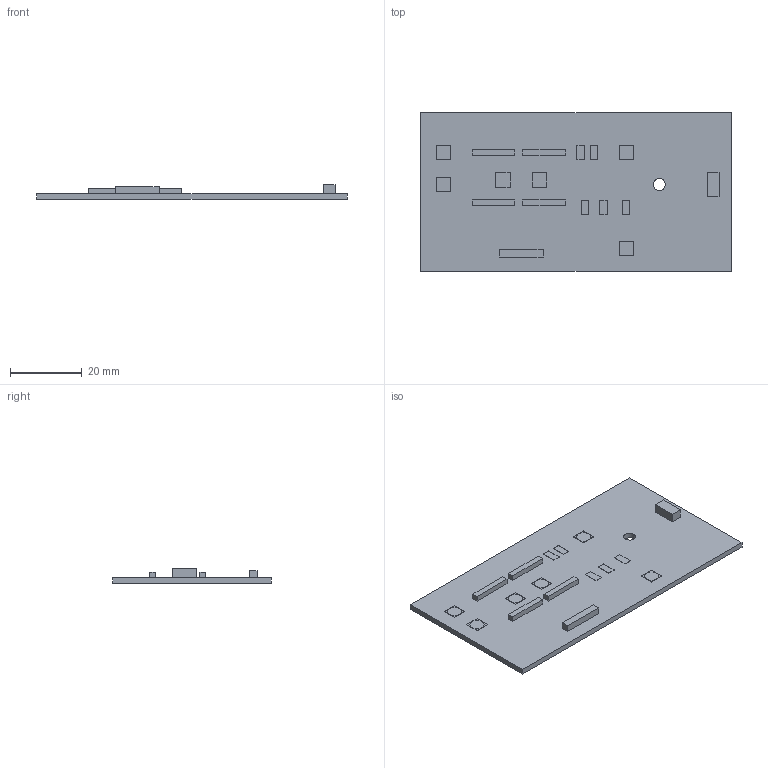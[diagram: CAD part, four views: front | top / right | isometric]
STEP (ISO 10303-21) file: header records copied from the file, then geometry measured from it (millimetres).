
FILE_DESCRIPTION(/* description */ (''),/* implementation_level */ '2;1');
FILE_NAME(/* name */ 'c:\worker\convert-fusion-r05\tmp\job-1\2\output\files\723cdc63-a4a3-4902-98d6-4858838bbab4\1fdb1200-b94e-44a2-bedc-cb7ec5bc6ab0.zip.stp',/* time_stamp */ '2020-06-09T15:14:01+00:00',/* author */ (''),/* organization */ (''),/* preprocessor_version */ 'ST-DEVELOPER v18.1',/* originating_system */ 'Autodesk Translation Framework v9.3.0.1241',/* authorisation */ '');
FILE_SCHEMA (('AUTOMOTIVE_DESIGN { 1 0 10303 214 3 1 1 }'));
Length unit declared in the file: millimetre
Products named in the file (9): power_supply; PCB Component; Board; 100uF; 1N4004; 317T; CONN_01_SCREW-PAD4MM; 240; 10k
Assembly tree (19 placements, depth 3):
  power_supply
    PCB Component
      Board
      100uF  x4
      1N4004  x4
      317T
      CONN_01_SCREW-PAD4MM  x6
      240
      10k
Bounding box: 86.34 x 44.12 x 4.11 mm (x, y, z)
Volume: 6068.2 mm3; surface area: 8859.4 mm2
Topology: 18 solids, 18 shells, 129 faces, 279 edges, 186 vertices
Faces by surface type: plane 108, cylinder 21
Full cylindrical faces by diameter (mm): 1.118 x11, 1.2 x3, 3.302 x1, 3.988 x6
Entity records: 2310 total; most frequent: DIRECTION 371, CARTESIAN_POINT 336, ORIENTED_EDGE 294, EDGE_CURVE 147, AXIS2_PLACEMENT_3D 133, EDGE_LOOP 105, LINE 105, VECTOR 105
